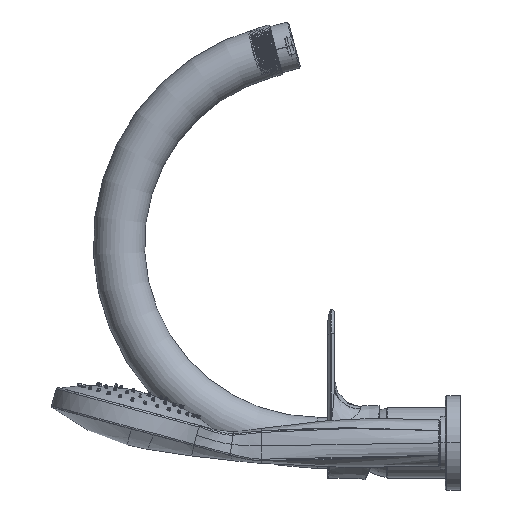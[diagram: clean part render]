
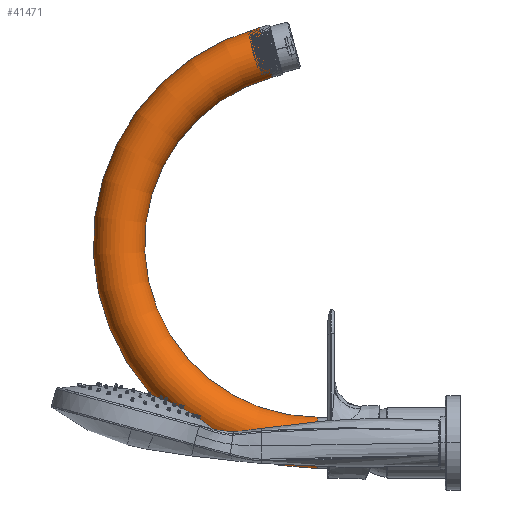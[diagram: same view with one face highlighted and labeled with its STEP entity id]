
A CAD part, left-side view. The second image highlights one B-rep face of the part: STEP entity #41471.
In plain terms, the highlighted toroidal (fillet/blend) face has major radius 116 mm and minor radius 15 mm.
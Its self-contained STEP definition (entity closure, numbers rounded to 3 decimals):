
#38176=CARTESIAN_POINT('',(0.,21.,0.));
#38177=DIRECTION('',(0.,1.,0.));
#38178=DIRECTION('',(-1.,0.,0.));
#38179=AXIS2_PLACEMENT_3D('',#38176,#38177,#38178);
#38181=CARTESIAN_POINT('',(116.,21.,0.));
#38182=DIRECTION('',(0.,0.,-1.));
#38183=DIRECTION('',(-1.,0.,0.));
#38184=AXIS2_PLACEMENT_3D('',#38181,#38182,#38183);
#38191=CARTESIAN_POINT('',(116.,21.,0.));
#38192=DIRECTION('',(0.,0.,-1.));
#38193=DIRECTION('',(-1.,0.,0.));
#38194=AXIS2_PLACEMENT_3D('',#38191,#38192,#38193);
#38243=CARTESIAN_POINT('',(228.047,51.023,0.));
#38244=DIRECTION('',(0.259,-0.966,0.));
#38245=DIRECTION('',(0.966,0.259,0.));
#38246=AXIS2_PLACEMENT_3D('',#38243,#38244,#38245);
#41228=CARTESIAN_POINT('',(-15.,21.,0.));
#41229=CARTESIAN_POINT('',(15.,21.,0.));
#41230=VERTEX_POINT('',#41228);
#41231=VERTEX_POINT('',#41229);
#41232=CARTESIAN_POINT('',(242.536,54.905,0.));
#41233=CARTESIAN_POINT('',(213.559,47.141,0.));
#41234=VERTEX_POINT('',#41232);
#41235=VERTEX_POINT('',#41233);
#41457=CARTESIAN_POINT('',(116.,21.,0.));
#41458=DIRECTION('',(0.,0.,-1.));
#41459=DIRECTION('',(1.,0.,0.));
#41460=AXIS2_PLACEMENT_3D('',#41457,#41458,#41459);
#41461=TOROIDAL_SURFACE('',#41460,116.,15.);
#41462=ORIENTED_EDGE('',*,*,#41451,.F.);
#41464=ORIENTED_EDGE('',*,*,#41463,.T.);
#41466=ORIENTED_EDGE('',*,*,#41465,.T.);
#41468=ORIENTED_EDGE('',*,*,#41467,.F.);
#41469=EDGE_LOOP('',(#41462,#41464,#41466,#41468));
#41470=FACE_OUTER_BOUND('',#41469,.F.);
#41471=ADVANCED_FACE('',(#41470),#41461,.T.);
#38180=CIRCLE('',#38179,15.);
#38185=CIRCLE('',#38184,131.);
#38195=CIRCLE('',#38194,101.);
#38247=CIRCLE('',#38246,15.);
#41451=EDGE_CURVE('',#41230,#41231,#38180,.T.);
#41463=EDGE_CURVE('',#41230,#41234,#38185,.T.);
#41465=EDGE_CURVE('',#41234,#41235,#38247,.T.);
#41467=EDGE_CURVE('',#41231,#41235,#38195,.T.);
